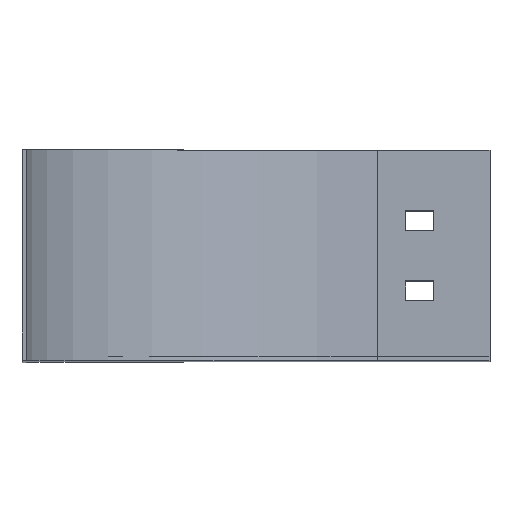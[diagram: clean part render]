
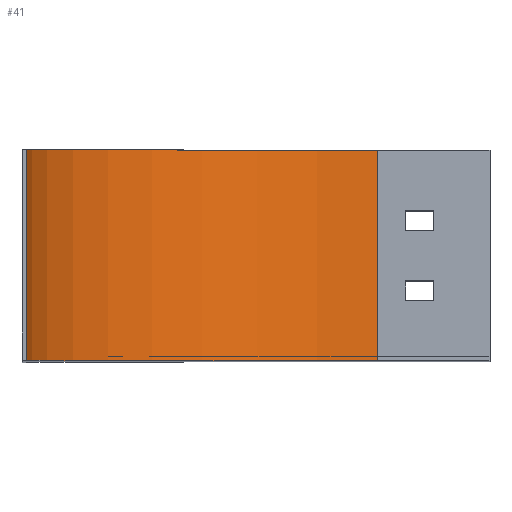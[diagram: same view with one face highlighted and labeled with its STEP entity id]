
A CAD part, top view. The second image highlights one B-rep face of the part: STEP entity #41.
In plain terms, the highlighted cylindrical face has radius 125 mm (diameter 250 mm), a partial arc.
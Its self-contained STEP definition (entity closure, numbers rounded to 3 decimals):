
#41 = ADVANCED_FACE ( 'NONE', ( #1168 ), #1140, .F. ) ;
#152 = CIRCLE ( 'NONE', #894, 125. ) ;
#155 = CARTESIAN_POINT ( 'NONE',  ( -125., 75., 0. ) ) ;
#235 = VERTEX_POINT ( 'NONE', #155 ) ;
#250 = VERTEX_POINT ( 'NONE', #654 ) ;
#252 = CARTESIAN_POINT ( 'NONE',  ( 0., 0., 0. ) ) ;
#270 = ORIENTED_EDGE ( 'NONE', *, *, #992, .F. ) ;
#282 = DIRECTION ( 'NONE',  ( 0., 0., -1. ) ) ;
#300 = EDGE_CURVE ( 'NONE', #235, #1128, #1360, .T. ) ;
#354 = VECTOR ( 'NONE', #1225, 1000. ) ;
#391 = DIRECTION ( 'NONE',  ( 0., -1., 0. ) ) ;
#441 = LINE ( 'NONE', #1190, #1447 ) ;
#478 = ORIENTED_EDGE ( 'NONE', *, *, #1252, .T. ) ;
#503 = CARTESIAN_POINT ( 'NONE',  ( 0., 75., -125. ) ) ;
#537 = AXIS2_PLACEMENT_3D ( 'NONE', #1537, #1417, #1586 ) ;
#597 = CARTESIAN_POINT ( 'NONE',  ( -125., 0., 0. ) ) ;
#639 = DIRECTION ( 'NONE',  ( 0., 0., -1. ) ) ;
#642 = ORIENTED_EDGE ( 'NONE', *, *, #300, .T. ) ;
#654 = CARTESIAN_POINT ( 'NONE',  ( 0., 0., -125. ) ) ;
#693 = CARTESIAN_POINT ( 'NONE',  ( -125., 75., 0. ) ) ;
#800 = EDGE_LOOP ( 'NONE', ( #478, #270, #1644, #642 ) ) ;
#803 = AXIS2_PLACEMENT_3D ( 'NONE', #1299, #391, #639 ) ;
#894 = AXIS2_PLACEMENT_3D ( 'NONE', #252, #1443, #282 ) ;
#904 = EDGE_CURVE ( 'NONE', #235, #1226, #1679, .T. ) ;
#992 = EDGE_CURVE ( 'NONE', #1226, #250, #441, .T. ) ;
#1056 = DIRECTION ( 'NONE',  ( 0., -1., 0. ) ) ;
#1128 = VERTEX_POINT ( 'NONE', #597 ) ;
#1140 = CYLINDRICAL_SURFACE ( 'NONE', #803, 125. ) ;
#1168 = FACE_OUTER_BOUND ( 'NONE', #800, .T. ) ;
#1190 = CARTESIAN_POINT ( 'NONE',  ( 0., 75., -125. ) ) ;
#1225 = DIRECTION ( 'NONE',  ( 0., -1., 0. ) ) ;
#1226 = VERTEX_POINT ( 'NONE', #503 ) ;
#1252 = EDGE_CURVE ( 'NONE', #1128, #250, #152, .T. ) ;
#1299 = CARTESIAN_POINT ( 'NONE',  ( 0., 75., 0. ) ) ;
#1360 = LINE ( 'NONE', #693, #354 ) ;
#1417 = DIRECTION ( 'NONE',  ( 0., -1., 0. ) ) ;
#1443 = DIRECTION ( 'NONE',  ( 0., -1., 0. ) ) ;
#1447 = VECTOR ( 'NONE', #1056, 1000. ) ;
#1537 = CARTESIAN_POINT ( 'NONE',  ( 0., 75., 0. ) ) ;
#1586 = DIRECTION ( 'NONE',  ( 0., 0., -1. ) ) ;
#1644 = ORIENTED_EDGE ( 'NONE', *, *, #904, .F. ) ;
#1679 = CIRCLE ( 'NONE', #537, 125. ) ;
